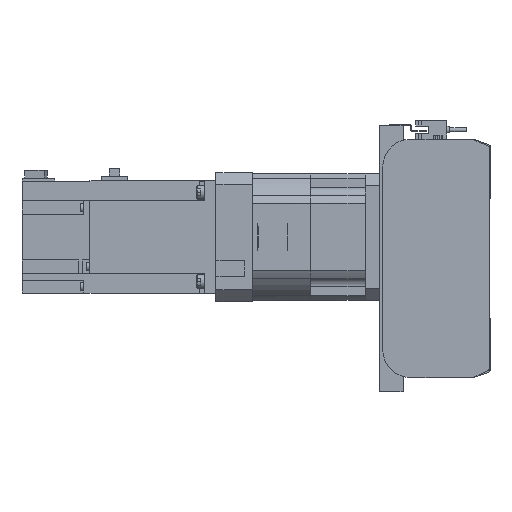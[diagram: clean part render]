
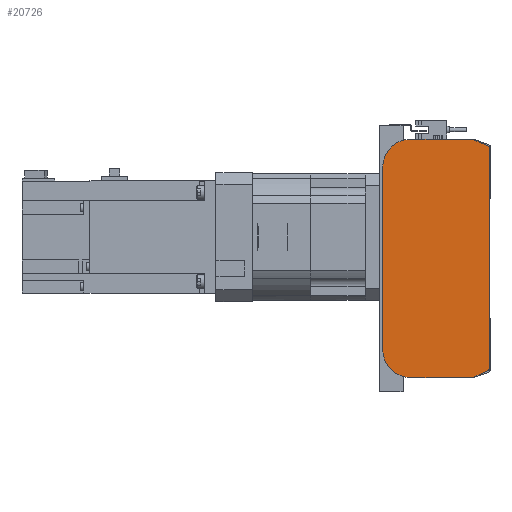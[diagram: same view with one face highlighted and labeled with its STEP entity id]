
A CAD part, left-side view. The second image highlights one B-rep face of the part: STEP entity #20726.
In plain terms, the highlighted planar face has unit normal (-1, 0, 0).
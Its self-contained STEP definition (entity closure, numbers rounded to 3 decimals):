
#1506=CIRCLE('',#22705,2.);
#1507=CIRCLE('',#22708,2.);
#1508=CIRCLE('',#22711,20.);
#1509=CIRCLE('',#22714,20.);
#6027=ORIENTED_EDGE('',*,*,#9733,.F.);
#6028=ORIENTED_EDGE('',*,*,#9811,.F.);
#6029=ORIENTED_EDGE('',*,*,#9809,.F.);
#6030=ORIENTED_EDGE('',*,*,#9807,.F.);
#6031=ORIENTED_EDGE('',*,*,#9545,.F.);
#6032=ORIENTED_EDGE('',*,*,#9806,.F.);
#6033=ORIENTED_EDGE('',*,*,#9804,.F.);
#6034=ORIENTED_EDGE('',*,*,#9802,.F.);
#6035=ORIENTED_EDGE('',*,*,#9800,.F.);
#6036=ORIENTED_EDGE('',*,*,#9798,.F.);
#9545=EDGE_CURVE('',#11789,#11790,#13569,.T.);
#9733=EDGE_CURVE('',#11861,#11862,#13683,.T.);
#9798=EDGE_CURVE('',#11862,#11903,#13728,.T.);
#9800=EDGE_CURVE('',#11903,#11904,#1506,.T.);
#9802=EDGE_CURVE('',#11904,#11905,#13731,.T.);
#9804=EDGE_CURVE('',#11905,#11906,#1507,.T.);
#9806=EDGE_CURVE('',#11906,#11789,#13734,.T.);
#9807=EDGE_CURVE('',#11790,#11907,#1508,.T.);
#9809=EDGE_CURVE('',#11907,#11908,#13736,.T.);
#9811=EDGE_CURVE('',#11908,#11861,#1509,.T.);
#11789=VERTEX_POINT('',#34609);
#11790=VERTEX_POINT('',#34611);
#11861=VERTEX_POINT('',#34922);
#11862=VERTEX_POINT('',#34924);
#11903=VERTEX_POINT('',#35054);
#11904=VERTEX_POINT('',#35058);
#11905=VERTEX_POINT('',#35062);
#11906=VERTEX_POINT('',#35066);
#11907=VERTEX_POINT('',#35072);
#11908=VERTEX_POINT('',#35076);
#13569=LINE('',#34610,#15368);
#13683=LINE('',#34923,#15482);
#13728=LINE('',#35053,#15527);
#13731=LINE('',#35061,#15530);
#13734=LINE('',#35069,#15533);
#13736=LINE('',#35075,#15535);
#15368=VECTOR('',#27565,1000.);
#15482=VECTOR('',#27933,1000.);
#15527=VECTOR('',#28066,1000.);
#15530=VECTOR('',#28075,1000.);
#15533=VECTOR('',#28084,1000.);
#15535=VECTOR('',#28092,1000.);
#17040=EDGE_LOOP('',(#6027,#6028,#6029,#6030,#6031,#6032,#6033,#6034,#6035,
#6036));
#18727=FACE_BOUND('',#17040,.T.);
#19654=PLANE('',#22716);
#20726=ADVANCED_FACE('',(#18727),#19654,.F.);
#22705=AXIS2_PLACEMENT_3D('',#35057,#28070,#28071);
#22708=AXIS2_PLACEMENT_3D('',#35065,#28079,#28080);
#22711=AXIS2_PLACEMENT_3D('',#35071,#28087,#28088);
#22714=AXIS2_PLACEMENT_3D('',#35079,#28096,#28097);
#22716=AXIS2_PLACEMENT_3D('',#35081,#28100,#28101);
#27565=DIRECTION('',(0.,1.,0.));
#27933=DIRECTION('',(0.,-1.,0.));
#28066=DIRECTION('',(0.,-0.913,-0.408));
#28070=DIRECTION('',(1.,0.,0.));
#28071=DIRECTION('',(0.,0.,-1.));
#28075=DIRECTION('',(0.,0.,-1.));
#28079=DIRECTION('',(1.,0.,0.));
#28080=DIRECTION('',(0.,0.,-1.));
#28084=DIRECTION('',(0.,0.913,-0.408));
#28087=DIRECTION('',(1.,0.,0.));
#28088=DIRECTION('',(0.,0.,-1.));
#28092=DIRECTION('',(0.,0.,1.));
#28096=DIRECTION('',(1.,0.,0.));
#28097=DIRECTION('',(0.,0.,-1.));
#28100=DIRECTION('',(1.,0.,0.));
#28101=DIRECTION('',(0.,0.,-1.));
#34609=CARTESIAN_POINT('',(0.,12.33,-85.));
#34610=CARTESIAN_POINT('',(0.,12.33,-85.));
#34611=CARTESIAN_POINT('',(0.,56.5,-85.));
#34922=CARTESIAN_POINT('',(0.,56.5,85.));
#34923=CARTESIAN_POINT('',(0.,56.5,85.));
#34924=CARTESIAN_POINT('',(0.,12.33,85.));
#35053=CARTESIAN_POINT('',(0.,12.33,85.));
#35054=CARTESIAN_POINT('',(0.,1.684,80.239));
#35057=CARTESIAN_POINT('',(0.,2.5,78.413));
#35058=CARTESIAN_POINT('',(0.,0.5,78.413));
#35061=CARTESIAN_POINT('',(0.,0.5,78.413));
#35062=CARTESIAN_POINT('',(0.,0.5,-78.413));
#35065=CARTESIAN_POINT('',(0.,2.5,-78.413));
#35066=CARTESIAN_POINT('',(0.,1.684,-80.239));
#35069=CARTESIAN_POINT('',(0.,1.684,-80.239));
#35071=CARTESIAN_POINT('',(0.,56.5,-65.));
#35072=CARTESIAN_POINT('',(0.,76.5,-65.));
#35075=CARTESIAN_POINT('',(0.,76.5,-65.));
#35076=CARTESIAN_POINT('',(0.,76.5,65.));
#35079=CARTESIAN_POINT('',(0.,56.5,65.));
#35081=CARTESIAN_POINT('',(0.,2.5,78.413));
